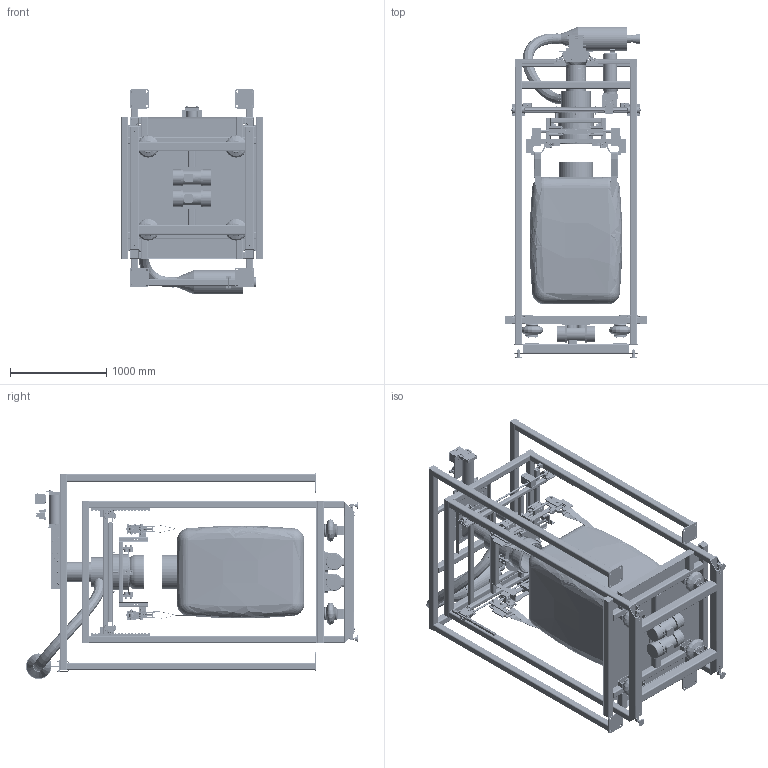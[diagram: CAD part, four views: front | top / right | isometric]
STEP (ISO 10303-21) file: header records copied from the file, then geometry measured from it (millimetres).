
FILE_DESCRIPTION(/* description */ ('Tube'),/* implementation_level */ '2;1');
FILE_NAME(/* name */ 'Z:\CUSTOMER ORDERS\A\Ascend\2100-SS-RL\Inventor Files\003863 - 2100-SS-RL.stp',/* time_stamp */ '2018-11-29T11:24:16-06:00',/* author */ ('RWest'),/* organization */ (''),/* preprocessor_version */ 'ST-DEVELOPER v15.6',/* originating_system */ 'Autodesk Inventor 2015',/* authorisation */ '');
FILE_SCHEMA (('AUTOMOTIVE_DESIGN { 1 0 10303 214 3 1 1 }'));
Products named in the file (175): AISC - 3x3x1_4 - 104.3125; AISC - 3x3x1_4 - 58; AISC - 2 1_2x2 1_2 - .1345; AISC - 3x3x1_4 - 44; AISC - 4x4x1_4 - 43; AISC - 6x3x1_4 - 4; AISC - 4x4x1_4 - 58; 003864 - Base - 2100-SS-RL; 000197 - Rota Load Base Frame - 01; 000197 - Rota Load Base Frame - 02; 000197 - Rota Load Base Frame - 03; 000197 - Rota Load Base Frame - 04; 000197 - Rota Load Base Frame - 05; 000197 - Rota Load Base Frame - 06; 000197 - Rota Load Base Frame; 000199 - Rota Load Hook Mounting Frame - 01; 000199 - Rota Load Hook Mounting Frame - 02; 000199 - Rota Load Hook Mounting Frame - 03; 000199 - Rota Load Hook Mounting Frame - 04; 000199 - Rota Load Hook Mounting Frame - 05; 000199 - Rota Load Hook Mounting Frame; 000025 - Rota Load Hook Plate; 000231 - Rota Load Bag Bale - 01; 000231 - Rota Load Bag Bale - 02; ANSI B18.2.2 - 1_2 - 13(2); ANSI_ASME B18.2.1 - 1_2-13 UNC - 1.5(2); 000231 - Rota Load Bag Bale; FTRE - 1.5 Flanged Cam Roller; PTR - 1.5 Plain Track Roller; 000202 - Rota Load Mounting Tube - 01; 000202 - Rota Load Mounting Tube - 02; 000202 - Rota Load Mounting Tube - 03; 000202 - Rota Load Mounting Tube; 1 OD x 5_8 ID x 2 Long Standoff; CQ2D80-75DMZ - 01; CQ2D80-75DMZ - 02; CQ2D80-75DMZ - 03; CQ2D80-75DMZ - 04; CQ2D80-75DMZ; CQ2D80-75DMZ_1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
Bounding box: 1473.2 x 3448.29 x 2139.1 mm (x, y, z)
Volume: 203680310.2 mm3; surface area: 62446154.6 mm2
Topology: 858 solids, 945 shells, 19376 faces, 45387 edges, 28570 vertices
Faces by surface type: plane 10178, cylinder 4657, cone 3008, bspline 856, torus 543, sphere 134
Full cylindrical faces by diameter (mm): 1.981 x8, 2.311 x1, 2.54 x2, 2.769 x8, 3 x8, 4.039 x1, 4.762 x6, 4.84 x40, 4.978 x8, 5.029 x1, 5.41 x3, 6.335 x1, 6.35 x8, 6.369 x38, 6.401 x20, 6.528 x12, 6.604 x8, 7.137 x8, 7.144 x8, 7.485 x24, 7.62 x1, 7.798 x40, 7.925 x4, 7.938 x20, 7.961 x16, 8.23 x20, 8.738 x40, 9.144 x6, 9.209 x18, 9.525 x59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
Entity records: 270098 total; most frequent: CARTESIAN_POINT 85278, DIRECTION 36351, ORIENTED_EDGE 36251, EDGE_CURVE 18325, AXIS2_PLACEMENT_3D 13277, VERTEX_POINT 12214, EDGE_LOOP 10164, LINE 9797
